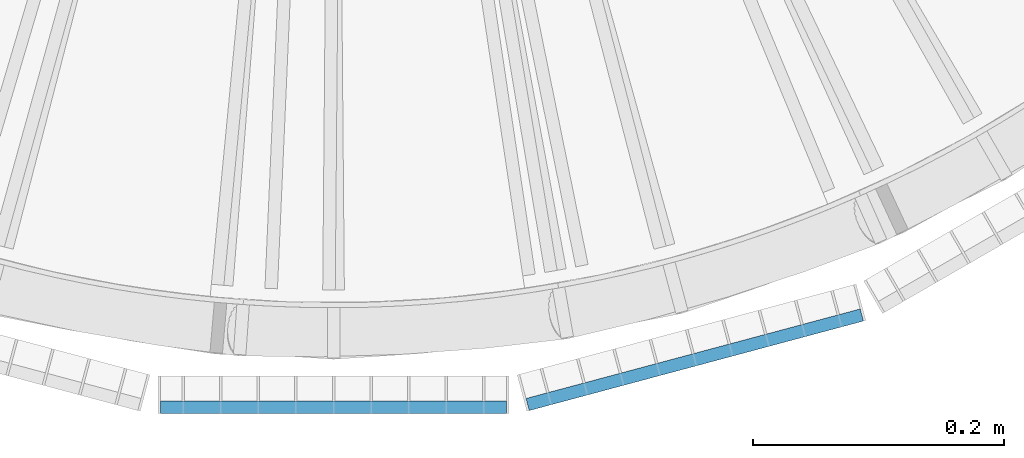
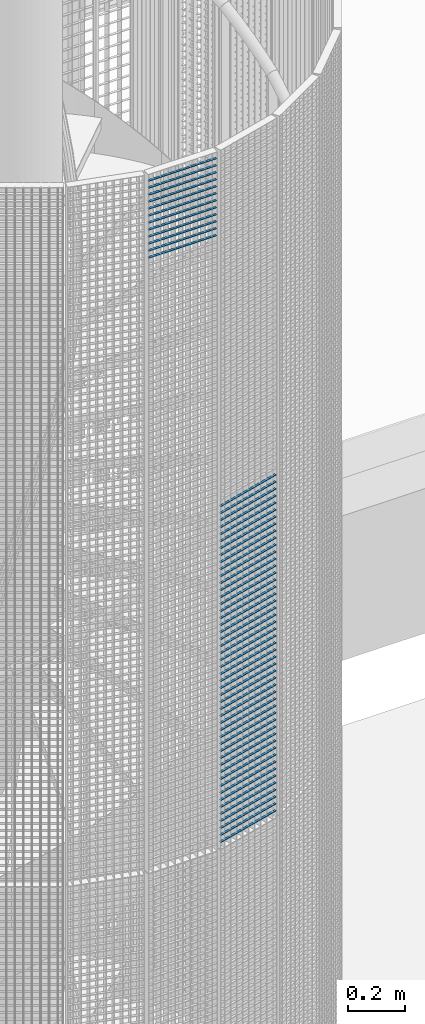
# One storey, part 136 of 1183: 61 beams, 2 elements without a shape of their own.
"""IFC2X3 building model written with IfcOpenShell, lengths in millimetres."""

from ifc_helpers import new_model, si_unit, frame, origin_with_axes, origin_2d_with_axis, place, context, subcontext, project, spatial, rectangle, extrude, material, type_object, element, aggregate, save


model = new_model("IFC2X3")

# Units and contexts
model_context = context("Model", 3, precision=1e-05, world=origin_with_axes())
body_context = subcontext(model_context, "Body", "Model", "MODEL_VIEW")
ifc_project = project(units=[si_unit("LENGTHUNIT", "METRE", prefix="MILLI"), si_unit("AREAUNIT", "SQUARE_METRE"), si_unit("VOLUMEUNIT", "CUBIC_METRE"), si_unit("MASSUNIT", "GRAM", prefix="KILO"), si_unit("TIMEUNIT", "SECOND"), si_unit("PLANEANGLEUNIT", "RADIAN"), si_unit("SOLIDANGLEUNIT", "STERADIAN"), si_unit("THERMODYNAMICTEMPERATUREUNIT", "DEGREE_CELSIUS"), si_unit("LUMINOUSINTENSITYUNIT", "LUMEN")], contexts=[model_context])

# Site, building, storey
site_placement = place(None, origin_with_axes())
site = spatial("IfcSite", under=ifc_project, at=site_placement, Name="Undefined", CompositionType="ELEMENT")
building_placement = place(site_placement, origin_with_axes())
building = spatial("IfcBuilding", under=site, at=building_placement, Name="Undefined", CompositionType="ELEMENT")
storey_placement = place(building_placement, origin_with_axes())
storey = spatial("IfcBuildingStorey", under=building, at=storey_placement, Name="Undefined", CompositionType="ELEMENT", Elevation=0.0)

# Assembly, beams
assembly_1_placement = place(storey_placement, origin_with_axes())
assembly_1 = element("IfcElementAssembly", 1, at=assembly_1_placement, inside=storey, Name="BORDURE", AssemblyPlace="NOTDEFINED", PredefinedType="NOTDEFINED")
ifc_material = material(Name="STEEL/S235JR")
beam_type = type_object("IfcBeamType", Name="PL2*10", PredefinedType="NOTDEFINED")
beam_1_placement = place(assembly_1_placement, frame((154.895926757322, -1111.25508286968, 16470.0), z_axis=(0.258819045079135, -0.965925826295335, 0.0), x_axis=(0.965925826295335, 0.258819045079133, 0.0)))
beam_1 = element("IfcBeam", 2, at=beam_1_placement, type_object=beam_type, material=ifc_material, Name="ENTRETOISE", context=body_context, shape_type="SweptSolid", body=[
    extrude(rectangle(XDim=2.0, YDim=10.0, at=origin_2d_with_axis()), frame((275.999999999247, 9.09494701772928e-13, 1.53210777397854e-14), z_axis=(-1.0, 0.0, 0.0), x_axis=(0.0, -1.0, 0.0)), (0.0, 0.0, 1.0), 276.0),
])
beam_2_placement = place(assembly_1_placement, frame((154.895926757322, -1111.25508286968, 16440.0), z_axis=(0.258819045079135, -0.965925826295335, 0.0), x_axis=(0.965925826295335, 0.258819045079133, 0.0)))
beam_2 = element("IfcBeam", 3, at=beam_2_placement, type_object=beam_type, material=ifc_material, Name="ENTRETOISE", context=body_context, shape_type="SweptSolid", body=[
    extrude(rectangle(XDim=2.0, YDim=10.0, at=origin_2d_with_axis()), frame((275.999999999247, 9.09494701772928e-13, 1.53210777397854e-14), z_axis=(-1.0, 0.0, 0.0), x_axis=(0.0, -1.0, 0.0)), (0.0, 0.0, 1.0), 276.0),
])
beam_3_placement = place(assembly_1_placement, frame((154.895926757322, -1111.25508286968, 16410.0), z_axis=(0.258819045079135, -0.965925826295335, 0.0), x_axis=(0.965925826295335, 0.258819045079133, 0.0)))
beam_3 = element("IfcBeam", 4, at=beam_3_placement, type_object=beam_type, material=ifc_material, Name="ENTRETOISE", context=body_context, shape_type="SweptSolid", body=[
    extrude(rectangle(XDim=2.0, YDim=10.0, at=origin_2d_with_axis()), frame((275.999999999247, 9.09494701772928e-13, 1.53210777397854e-14), z_axis=(-1.0, 0.0, 0.0), x_axis=(0.0, -1.0, 0.0)), (0.0, 0.0, 1.0), 276.0),
])
beam_4_placement = place(assembly_1_placement, frame((154.895926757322, -1111.25508286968, 16380.0), z_axis=(0.258819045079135, -0.965925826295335, 0.0), x_axis=(0.965925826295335, 0.258819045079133, 0.0)))
beam_4 = element("IfcBeam", 5, at=beam_4_placement, type_object=beam_type, material=ifc_material, Name="ENTRETOISE", context=body_context, shape_type="SweptSolid", body=[
    extrude(rectangle(XDim=2.0, YDim=10.0, at=origin_2d_with_axis()), frame((275.999999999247, 9.09494701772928e-13, 1.53210777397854e-14), z_axis=(-1.0, 0.0, 0.0), x_axis=(0.0, -1.0, 0.0)), (0.0, 0.0, 1.0), 276.0),
])
beam_5_placement = place(assembly_1_placement, frame((154.895926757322, -1111.25508286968, 16350.0), z_axis=(0.258819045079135, -0.965925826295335, 0.0), x_axis=(0.965925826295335, 0.258819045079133, 0.0)))
beam_5 = element("IfcBeam", 6, at=beam_5_placement, type_object=beam_type, material=ifc_material, Name="ENTRETOISE", context=body_context, shape_type="SweptSolid", body=[
    extrude(rectangle(XDim=2.0, YDim=10.0, at=origin_2d_with_axis()), frame((275.999999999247, 9.09494701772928e-13, 1.53210777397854e-14), z_axis=(-1.0, 0.0, 0.0), x_axis=(0.0, -1.0, 0.0)), (0.0, 0.0, 1.0), 276.0),
])
beam_6_placement = place(assembly_1_placement, frame((154.895926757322, -1111.25508286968, 16320.0), z_axis=(0.258819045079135, -0.965925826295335, 0.0), x_axis=(0.965925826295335, 0.258819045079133, 0.0)))
beam_6 = element("IfcBeam", 7, at=beam_6_placement, type_object=beam_type, material=ifc_material, Name="ENTRETOISE", context=body_context, shape_type="SweptSolid", body=[
    extrude(rectangle(XDim=2.0, YDim=10.0, at=origin_2d_with_axis()), frame((275.999999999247, 9.09494701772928e-13, 1.53210777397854e-14), z_axis=(-1.0, 0.0, 0.0), x_axis=(0.0, -1.0, 0.0)), (0.0, 0.0, 1.0), 276.0),
])
beam_7_placement = place(assembly_1_placement, frame((154.895926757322, -1111.25508286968, 16290.0), z_axis=(0.258819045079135, -0.965925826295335, 0.0), x_axis=(0.965925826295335, 0.258819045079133, 0.0)))
beam_7 = element("IfcBeam", 8, at=beam_7_placement, type_object=beam_type, material=ifc_material, Name="ENTRETOISE", context=body_context, shape_type="SweptSolid", body=[
    extrude(rectangle(XDim=2.0, YDim=10.0, at=origin_2d_with_axis()), frame((275.999999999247, 9.09494701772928e-13, 1.53210777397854e-14), z_axis=(-1.0, 0.0, 0.0), x_axis=(0.0, -1.0, 0.0)), (0.0, 0.0, 1.0), 276.0),
])
beam_8_placement = place(assembly_1_placement, frame((154.895926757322, -1111.25508286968, 16260.0), z_axis=(0.258819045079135, -0.965925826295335, 0.0), x_axis=(0.965925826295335, 0.258819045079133, 0.0)))
beam_8 = element("IfcBeam", 9, at=beam_8_placement, type_object=beam_type, material=ifc_material, Name="ENTRETOISE", context=body_context, shape_type="SweptSolid", body=[
    extrude(rectangle(XDim=2.0, YDim=10.0, at=origin_2d_with_axis()), frame((275.999999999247, 9.09494701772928e-13, 1.53210777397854e-14), z_axis=(-1.0, 0.0, 0.0), x_axis=(0.0, -1.0, 0.0)), (0.0, 0.0, 1.0), 276.0),
])
beam_9_placement = place(assembly_1_placement, frame((154.895926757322, -1111.25508286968, 16230.0), z_axis=(0.258819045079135, -0.965925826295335, 0.0), x_axis=(0.965925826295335, 0.258819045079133, 0.0)))
beam_9 = element("IfcBeam", 10, at=beam_9_placement, type_object=beam_type, material=ifc_material, Name="ENTRETOISE", context=body_context, shape_type="SweptSolid", body=[
    extrude(rectangle(XDim=2.0, YDim=10.0, at=origin_2d_with_axis()), frame((275.999999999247, 9.09494701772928e-13, 1.53210777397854e-14), z_axis=(-1.0, 0.0, 0.0), x_axis=(0.0, -1.0, 0.0)), (0.0, 0.0, 1.0), 276.0),
])
beam_10_placement = place(assembly_1_placement, frame((154.895926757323, -1111.25508286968, 16200.0), z_axis=(0.258819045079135, -0.965925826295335, 0.0), x_axis=(0.965925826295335, 0.258819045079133, 0.0)))
beam_10 = element("IfcBeam", 11, at=beam_10_placement, type_object=beam_type, material=ifc_material, Name="ENTRETOISE", context=body_context, shape_type="SweptSolid", body=[
    extrude(rectangle(XDim=2.0, YDim=10.0, at=origin_2d_with_axis()), frame((275.999999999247, 9.09494701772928e-13, 1.53210777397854e-14), z_axis=(-1.0, 0.0, 0.0), x_axis=(0.0, -1.0, 0.0)), (0.0, 0.0, 1.0), 276.0),
])
beam_11_placement = place(assembly_1_placement, frame((154.895926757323, -1111.25508286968, 16170.0), z_axis=(0.258819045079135, -0.965925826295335, 0.0), x_axis=(0.965925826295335, 0.258819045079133, 0.0)))
beam_11 = element("IfcBeam", 12, at=beam_11_placement, type_object=beam_type, material=ifc_material, Name="ENTRETOISE", context=body_context, shape_type="SweptSolid", body=[
    extrude(rectangle(XDim=2.0, YDim=10.0, at=origin_2d_with_axis()), frame((275.999999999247, 9.09494701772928e-13, 1.53210777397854e-14), z_axis=(-1.0, 0.0, 0.0), x_axis=(0.0, -1.0, 0.0)), (0.0, 0.0, 1.0), 276.0),
])
beam_12_placement = place(assembly_1_placement, frame((154.895926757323, -1111.25508286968, 16140.0), z_axis=(0.258819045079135, -0.965925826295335, 0.0), x_axis=(0.965925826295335, 0.258819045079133, 0.0)))
beam_12 = element("IfcBeam", 13, at=beam_12_placement, type_object=beam_type, material=ifc_material, Name="ENTRETOISE", context=body_context, shape_type="SweptSolid", body=[
    extrude(rectangle(XDim=2.0, YDim=10.0, at=origin_2d_with_axis()), frame((275.999999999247, 9.09494701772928e-13, 1.53210777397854e-14), z_axis=(-1.0, 0.0, 0.0), x_axis=(0.0, -1.0, 0.0)), (0.0, 0.0, 1.0), 276.0),
])
beam_13_placement = place(assembly_1_placement, frame((154.895926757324, -1111.25508286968, 15720.0), z_axis=(0.258819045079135, -0.965925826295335, 0.0), x_axis=(0.965925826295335, 0.258819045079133, 0.0)))
beam_13 = element("IfcBeam", 14, at=beam_13_placement, type_object=beam_type, material=ifc_material, Name="ENTRETOISE", context=body_context, shape_type="SweptSolid", body=[
    extrude(rectangle(XDim=2.0, YDim=10.0, at=origin_2d_with_axis()), frame((275.999999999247, 9.09494701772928e-13, 1.53210777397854e-14), z_axis=(-1.0, 0.0, 0.0), x_axis=(0.0, -1.0, 0.0)), (0.0, 0.0, 1.0), 276.0),
])
beam_14_placement = place(assembly_1_placement, frame((154.895926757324, -1111.25508286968, 15690.0), z_axis=(0.258819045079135, -0.965925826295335, 0.0), x_axis=(0.965925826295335, 0.258819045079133, 0.0)))
beam_14 = element("IfcBeam", 15, at=beam_14_placement, type_object=beam_type, material=ifc_material, Name="ENTRETOISE", context=body_context, shape_type="SweptSolid", body=[
    extrude(rectangle(XDim=2.0, YDim=10.0, at=origin_2d_with_axis()), frame((275.999999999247, 9.09494701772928e-13, 1.53210777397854e-14), z_axis=(-1.0, 0.0, 0.0), x_axis=(0.0, -1.0, 0.0)), (0.0, 0.0, 1.0), 276.0),
])
beam_15_placement = place(assembly_1_placement, frame((154.895926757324, -1111.25508286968, 15750.0), z_axis=(0.258819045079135, -0.965925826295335, 0.0), x_axis=(0.965925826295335, 0.258819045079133, 0.0)))
beam_15 = element("IfcBeam", 16, at=beam_15_placement, type_object=beam_type, material=ifc_material, Name="ENTRETOISE", context=body_context, shape_type="SweptSolid", body=[
    extrude(rectangle(XDim=2.0, YDim=10.0, at=origin_2d_with_axis()), frame((275.999999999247, 9.09494701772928e-13, 1.53210777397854e-14), z_axis=(-1.0, 0.0, 0.0), x_axis=(0.0, -1.0, 0.0)), (0.0, 0.0, 1.0), 276.0),
])
beam_16_placement = place(assembly_1_placement, frame((154.895926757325, -1111.25508286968, 15660.0), z_axis=(0.258819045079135, -0.965925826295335, 0.0), x_axis=(0.965925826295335, 0.258819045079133, 0.0)))
beam_16 = element("IfcBeam", 17, at=beam_16_placement, type_object=beam_type, material=ifc_material, Name="ENTRETOISE", context=body_context, shape_type="SweptSolid", body=[
    extrude(rectangle(XDim=2.0, YDim=10.0, at=origin_2d_with_axis()), frame((275.999999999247, 9.09494701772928e-13, 1.53210777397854e-14), z_axis=(-1.0, 0.0, 0.0), x_axis=(0.0, -1.0, 0.0)), (0.0, 0.0, 1.0), 276.0),
])
beam_17_placement = place(assembly_1_placement, frame((154.895926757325, -1111.25508286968, 15630.0), z_axis=(0.258819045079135, -0.965925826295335, 0.0), x_axis=(0.965925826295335, 0.258819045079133, 0.0)))
beam_17 = element("IfcBeam", 18, at=beam_17_placement, type_object=beam_type, material=ifc_material, Name="ENTRETOISE", context=body_context, shape_type="SweptSolid", body=[
    extrude(rectangle(XDim=2.0, YDim=10.0, at=origin_2d_with_axis()), frame((275.999999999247, 9.09494701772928e-13, 1.53210777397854e-14), z_axis=(-1.0, 0.0, 0.0), x_axis=(0.0, -1.0, 0.0)), (0.0, 0.0, 1.0), 276.0),
])
beam_18_placement = place(assembly_1_placement, frame((154.895926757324, -1111.25508286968, 15780.0), z_axis=(0.258819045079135, -0.965925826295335, 0.0), x_axis=(0.965925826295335, 0.258819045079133, 0.0)))
beam_18 = element("IfcBeam", 19, at=beam_18_placement, type_object=beam_type, material=ifc_material, Name="ENTRETOISE", context=body_context, shape_type="SweptSolid", body=[
    extrude(rectangle(XDim=2.0, YDim=10.0, at=origin_2d_with_axis()), frame((275.999999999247, 9.09494701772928e-13, 1.53210777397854e-14), z_axis=(-1.0, 0.0, 0.0), x_axis=(0.0, -1.0, 0.0)), (0.0, 0.0, 1.0), 276.0),
])
beam_19_placement = place(assembly_1_placement, frame((154.895926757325, -1111.25508286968, 15600.0), z_axis=(0.258819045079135, -0.965925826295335, 0.0), x_axis=(0.965925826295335, 0.258819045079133, 0.0)))
beam_19 = element("IfcBeam", 20, at=beam_19_placement, type_object=beam_type, material=ifc_material, Name="ENTRETOISE", context=body_context, shape_type="SweptSolid", body=[
    extrude(rectangle(XDim=2.0, YDim=10.0, at=origin_2d_with_axis()), frame((275.999999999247, 9.09494701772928e-13, 1.53210777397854e-14), z_axis=(-1.0, 0.0, 0.0), x_axis=(0.0, -1.0, 0.0)), (0.0, 0.0, 1.0), 276.0),
])
beam_20_placement = place(assembly_1_placement, frame((154.895926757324, -1111.25508286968, 15810.0), z_axis=(0.258819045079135, -0.965925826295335, 0.0), x_axis=(0.965925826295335, 0.258819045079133, 0.0)))
beam_20 = element("IfcBeam", 21, at=beam_20_placement, type_object=beam_type, material=ifc_material, Name="ENTRETOISE", context=body_context, shape_type="SweptSolid", body=[
    extrude(rectangle(XDim=2.0, YDim=10.0, at=origin_2d_with_axis()), frame((275.999999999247, 9.09494701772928e-13, 1.53210777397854e-14), z_axis=(-1.0, 0.0, 0.0), x_axis=(0.0, -1.0, 0.0)), (0.0, 0.0, 1.0), 276.0),
])
beam_21_placement = place(assembly_1_placement, frame((154.895926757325, -1111.25508286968, 15570.0), z_axis=(0.258819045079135, -0.965925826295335, 0.0), x_axis=(0.965925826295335, 0.258819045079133, 0.0)))
beam_21 = element("IfcBeam", 22, at=beam_21_placement, type_object=beam_type, material=ifc_material, Name="ENTRETOISE", context=body_context, shape_type="SweptSolid", body=[
    extrude(rectangle(XDim=2.0, YDim=10.0, at=origin_2d_with_axis()), frame((275.999999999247, 9.09494701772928e-13, 1.53210777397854e-14), z_axis=(-1.0, 0.0, 0.0), x_axis=(0.0, -1.0, 0.0)), (0.0, 0.0, 1.0), 276.0),
])
beam_22_placement = place(assembly_1_placement, frame((154.895926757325, -1111.25508286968, 15540.0), z_axis=(0.258819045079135, -0.965925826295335, 0.0), x_axis=(0.965925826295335, 0.258819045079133, 0.0)))
beam_22 = element("IfcBeam", 23, at=beam_22_placement, type_object=beam_type, material=ifc_material, Name="ENTRETOISE", context=body_context, shape_type="SweptSolid", body=[
    extrude(rectangle(XDim=2.0, YDim=10.0, at=origin_2d_with_axis()), frame((275.999999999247, 9.09494701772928e-13, 1.53210777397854e-14), z_axis=(-1.0, 0.0, 0.0), x_axis=(0.0, -1.0, 0.0)), (0.0, 0.0, 1.0), 276.0),
])
beam_23_placement = place(assembly_1_placement, frame((154.895926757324, -1111.25508286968, 15840.0), z_axis=(0.258819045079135, -0.965925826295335, 0.0), x_axis=(0.965925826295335, 0.258819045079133, 0.0)))
beam_23 = element("IfcBeam", 24, at=beam_23_placement, type_object=beam_type, material=ifc_material, Name="ENTRETOISE", context=body_context, shape_type="SweptSolid", body=[
    extrude(rectangle(XDim=2.0, YDim=10.0, at=origin_2d_with_axis()), frame((275.999999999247, 9.09494701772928e-13, 1.53210777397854e-14), z_axis=(-1.0, 0.0, 0.0), x_axis=(0.0, -1.0, 0.0)), (0.0, 0.0, 1.0), 276.0),
])
beam_24_placement = place(assembly_1_placement, frame((154.895926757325, -1111.25508286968, 15510.0), z_axis=(0.258819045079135, -0.965925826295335, 0.0), x_axis=(0.965925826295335, 0.258819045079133, 0.0)))
beam_24 = element("IfcBeam", 25, at=beam_24_placement, type_object=beam_type, material=ifc_material, Name="ENTRETOISE", context=body_context, shape_type="SweptSolid", body=[
    extrude(rectangle(XDim=2.0, YDim=10.0, at=origin_2d_with_axis()), frame((275.999999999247, 9.09494701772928e-13, 1.53210777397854e-14), z_axis=(-1.0, 0.0, 0.0), x_axis=(0.0, -1.0, 0.0)), (0.0, 0.0, 1.0), 276.0),
])
beam_25_placement = place(assembly_1_placement, frame((154.895926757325, -1111.25508286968, 15480.0), z_axis=(0.258819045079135, -0.965925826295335, 0.0), x_axis=(0.965925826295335, 0.258819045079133, 0.0)))
beam_25 = element("IfcBeam", 26, at=beam_25_placement, type_object=beam_type, material=ifc_material, Name="ENTRETOISE", context=body_context, shape_type="SweptSolid", body=[
    extrude(rectangle(XDim=2.0, YDim=10.0, at=origin_2d_with_axis()), frame((275.999999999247, 9.09494701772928e-13, 1.53210777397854e-14), z_axis=(-1.0, 0.0, 0.0), x_axis=(0.0, -1.0, 0.0)), (0.0, 0.0, 1.0), 276.0),
])
beam_26_placement = place(assembly_1_placement, frame((154.895926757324, -1111.25508286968, 15870.0), z_axis=(0.258819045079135, -0.965925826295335, 0.0), x_axis=(0.965925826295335, 0.258819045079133, 0.0)))
beam_26 = element("IfcBeam", 27, at=beam_26_placement, type_object=beam_type, material=ifc_material, Name="ENTRETOISE", context=body_context, shape_type="SweptSolid", body=[
    extrude(rectangle(XDim=2.0, YDim=10.0, at=origin_2d_with_axis()), frame((275.999999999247, 9.09494701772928e-13, 1.53210777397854e-14), z_axis=(-1.0, 0.0, 0.0), x_axis=(0.0, -1.0, 0.0)), (0.0, 0.0, 1.0), 276.0),
])
beam_27_placement = place(assembly_1_placement, frame((154.895926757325, -1111.25508286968, 15450.0), z_axis=(0.258819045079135, -0.965925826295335, 0.0), x_axis=(0.965925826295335, 0.258819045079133, 0.0)))
beam_27 = element("IfcBeam", 28, at=beam_27_placement, type_object=beam_type, material=ifc_material, Name="ENTRETOISE", context=body_context, shape_type="SweptSolid", body=[
    extrude(rectangle(XDim=2.0, YDim=10.0, at=origin_2d_with_axis()), frame((275.999999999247, 9.09494701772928e-13, 1.53210777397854e-14), z_axis=(-1.0, 0.0, 0.0), x_axis=(0.0, -1.0, 0.0)), (0.0, 0.0, 1.0), 276.0),
])
beam_28_placement = place(assembly_1_placement, frame((154.895926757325, -1111.25508286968, 15420.0), z_axis=(0.258819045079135, -0.965925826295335, 0.0), x_axis=(0.965925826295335, 0.258819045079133, 0.0)))
beam_28 = element("IfcBeam", 29, at=beam_28_placement, type_object=beam_type, material=ifc_material, Name="ENTRETOISE", context=body_context, shape_type="SweptSolid", body=[
    extrude(rectangle(XDim=2.0, YDim=10.0, at=origin_2d_with_axis()), frame((275.999999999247, 9.09494701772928e-13, 1.53210777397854e-14), z_axis=(-1.0, 0.0, 0.0), x_axis=(0.0, -1.0, 0.0)), (0.0, 0.0, 1.0), 276.0),
])
beam_29_placement = place(assembly_1_placement, frame((154.895926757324, -1111.25508286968, 15900.0), z_axis=(0.258819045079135, -0.965925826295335, 0.0), x_axis=(0.965925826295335, 0.258819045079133, 0.0)))
beam_29 = element("IfcBeam", 30, at=beam_29_placement, type_object=beam_type, material=ifc_material, Name="ENTRETOISE", context=body_context, shape_type="SweptSolid", body=[
    extrude(rectangle(XDim=2.0, YDim=10.0, at=origin_2d_with_axis()), frame((275.999999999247, 9.09494701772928e-13, 1.53210777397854e-14), z_axis=(-1.0, 0.0, 0.0), x_axis=(0.0, -1.0, 0.0)), (0.0, 0.0, 1.0), 276.0),
])
beam_30_placement = place(assembly_1_placement, frame((154.895926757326, -1111.25508286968, 15390.0), z_axis=(0.258819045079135, -0.965925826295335, 0.0), x_axis=(0.965925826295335, 0.258819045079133, 0.0)))
beam_30 = element("IfcBeam", 31, at=beam_30_placement, type_object=beam_type, material=ifc_material, Name="ENTRETOISE", context=body_context, shape_type="SweptSolid", body=[
    extrude(rectangle(XDim=2.0, YDim=10.0, at=origin_2d_with_axis()), frame((275.999999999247, 9.09494701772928e-13, 1.53210777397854e-14), z_axis=(-1.0, 0.0, 0.0), x_axis=(0.0, -1.0, 0.0)), (0.0, 0.0, 1.0), 276.0),
])
beam_31_placement = place(assembly_1_placement, frame((154.895926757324, -1111.25508286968, 15930.0), z_axis=(0.258819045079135, -0.965925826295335, 0.0), x_axis=(0.965925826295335, 0.258819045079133, 0.0)))
beam_31 = element("IfcBeam", 32, at=beam_31_placement, type_object=beam_type, material=ifc_material, Name="ENTRETOISE", context=body_context, shape_type="SweptSolid", body=[
    extrude(rectangle(XDim=2.0, YDim=10.0, at=origin_2d_with_axis()), frame((275.999999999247, 9.09494701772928e-13, 1.53210777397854e-14), z_axis=(-1.0, 0.0, 0.0), x_axis=(0.0, -1.0, 0.0)), (0.0, 0.0, 1.0), 276.0),
])
beam_32_placement = place(assembly_1_placement, frame((154.895926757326, -1111.25508286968, 15360.0), z_axis=(0.258819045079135, -0.965925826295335, 0.0), x_axis=(0.965925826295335, 0.258819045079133, 0.0)))
beam_32 = element("IfcBeam", 33, at=beam_32_placement, type_object=beam_type, material=ifc_material, Name="ENTRETOISE", context=body_context, shape_type="SweptSolid", body=[
    extrude(rectangle(XDim=2.0, YDim=10.0, at=origin_2d_with_axis()), frame((275.999999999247, 9.09494701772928e-13, 1.53210777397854e-14), z_axis=(-1.0, 0.0, 0.0), x_axis=(0.0, -1.0, 0.0)), (0.0, 0.0, 1.0), 276.0),
])
beam_33_placement = place(assembly_1_placement, frame((154.895926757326, -1111.25508286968, 15330.0), z_axis=(0.258819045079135, -0.965925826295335, 0.0), x_axis=(0.965925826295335, 0.258819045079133, 0.0)))
beam_33 = element("IfcBeam", 34, at=beam_33_placement, type_object=beam_type, material=ifc_material, Name="ENTRETOISE", context=body_context, shape_type="SweptSolid", body=[
    extrude(rectangle(XDim=2.0, YDim=10.0, at=origin_2d_with_axis()), frame((275.999999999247, 9.09494701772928e-13, 1.53210777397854e-14), z_axis=(-1.0, 0.0, 0.0), x_axis=(0.0, -1.0, 0.0)), (0.0, 0.0, 1.0), 276.0),
])
beam_34_placement = place(assembly_1_placement, frame((154.895926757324, -1111.25508286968, 15960.0), z_axis=(0.258819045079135, -0.965925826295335, 0.0), x_axis=(0.965925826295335, 0.258819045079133, 0.0)))
beam_34 = element("IfcBeam", 35, at=beam_34_placement, type_object=beam_type, material=ifc_material, Name="ENTRETOISE", context=body_context, shape_type="SweptSolid", body=[
    extrude(rectangle(XDim=2.0, YDim=10.0, at=origin_2d_with_axis()), frame((275.999999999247, 9.09494701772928e-13, 1.53210777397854e-14), z_axis=(-1.0, 0.0, 0.0), x_axis=(0.0, -1.0, 0.0)), (0.0, 0.0, 1.0), 276.0),
])
beam_35_placement = place(assembly_1_placement, frame((154.895926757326, -1111.25508286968, 15300.0), z_axis=(0.258819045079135, -0.965925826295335, 0.0), x_axis=(0.965925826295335, 0.258819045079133, 0.0)))
beam_35 = element("IfcBeam", 36, at=beam_35_placement, type_object=beam_type, material=ifc_material, Name="ENTRETOISE", context=body_context, shape_type="SweptSolid", body=[
    extrude(rectangle(XDim=2.0, YDim=10.0, at=origin_2d_with_axis()), frame((275.999999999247, 9.09494701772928e-13, 1.53210777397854e-14), z_axis=(-1.0, 0.0, 0.0), x_axis=(0.0, -1.0, 0.0)), (0.0, 0.0, 1.0), 276.0),
])
beam_36_placement = place(assembly_1_placement, frame((154.895926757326, -1111.25508286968, 15270.0), z_axis=(0.258819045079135, -0.965925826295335, 0.0), x_axis=(0.965925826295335, 0.258819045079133, 0.0)))
beam_36 = element("IfcBeam", 37, at=beam_36_placement, type_object=beam_type, material=ifc_material, Name="ENTRETOISE", context=body_context, shape_type="SweptSolid", body=[
    extrude(rectangle(XDim=2.0, YDim=10.0, at=origin_2d_with_axis()), frame((275.999999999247, 9.09494701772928e-13, 1.53210777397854e-14), z_axis=(-1.0, 0.0, 0.0), x_axis=(0.0, -1.0, 0.0)), (0.0, 0.0, 1.0), 276.0),
])
beam_37_placement = place(assembly_1_placement, frame((154.895926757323, -1111.25508286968, 15990.0), z_axis=(0.258819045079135, -0.965925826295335, 0.0), x_axis=(0.965925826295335, 0.258819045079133, 0.0)))
beam_37 = element("IfcBeam", 38, at=beam_37_placement, type_object=beam_type, material=ifc_material, Name="ENTRETOISE", context=body_context, shape_type="SweptSolid", body=[
    extrude(rectangle(XDim=2.0, YDim=10.0, at=origin_2d_with_axis()), frame((275.999999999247, 9.09494701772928e-13, 1.53210777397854e-14), z_axis=(-1.0, 0.0, 0.0), x_axis=(0.0, -1.0, 0.0)), (0.0, 0.0, 1.0), 276.0),
])
beam_38_placement = place(assembly_1_placement, frame((154.895926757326, -1111.25508286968, 15240.0), z_axis=(0.258819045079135, -0.965925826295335, 0.0), x_axis=(0.965925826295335, 0.258819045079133, 0.0)))
beam_38 = element("IfcBeam", 39, at=beam_38_placement, type_object=beam_type, material=ifc_material, Name="ENTRETOISE", context=body_context, shape_type="SweptSolid", body=[
    extrude(rectangle(XDim=2.0, YDim=10.0, at=origin_2d_with_axis()), frame((275.999999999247, 9.09494701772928e-13, 1.53210777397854e-14), z_axis=(-1.0, 0.0, 0.0), x_axis=(0.0, -1.0, 0.0)), (0.0, 0.0, 1.0), 276.0),
])
beam_39_placement = place(assembly_1_placement, frame((154.895926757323, -1111.25508286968, 16020.0), z_axis=(0.258819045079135, -0.965925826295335, 0.0), x_axis=(0.965925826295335, 0.258819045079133, 0.0)))
beam_39 = element("IfcBeam", 40, at=beam_39_placement, type_object=beam_type, material=ifc_material, Name="ENTRETOISE", context=body_context, shape_type="SweptSolid", body=[
    extrude(rectangle(XDim=2.0, YDim=10.0, at=origin_2d_with_axis()), frame((275.999999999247, 9.09494701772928e-13, 1.53210777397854e-14), z_axis=(-1.0, 0.0, 0.0), x_axis=(0.0, -1.0, 0.0)), (0.0, 0.0, 1.0), 276.0),
])
beam_40_placement = place(assembly_1_placement, frame((154.895926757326, -1111.25508286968, 15210.0), z_axis=(0.258819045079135, -0.965925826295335, 0.0), x_axis=(0.965925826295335, 0.258819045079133, 0.0)))
beam_40 = element("IfcBeam", 41, at=beam_40_placement, type_object=beam_type, material=ifc_material, Name="ENTRETOISE", context=body_context, shape_type="SweptSolid", body=[
    extrude(rectangle(XDim=2.0, YDim=10.0, at=origin_2d_with_axis()), frame((275.999999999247, 9.09494701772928e-13, 1.53210777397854e-14), z_axis=(-1.0, 0.0, 0.0), x_axis=(0.0, -1.0, 0.0)), (0.0, 0.0, 1.0), 276.0),
])
beam_41_placement = place(assembly_1_placement, frame((154.895926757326, -1111.25508286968, 15180.0), z_axis=(0.258819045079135, -0.965925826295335, 0.0), x_axis=(0.965925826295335, 0.258819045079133, 0.0)))
beam_41 = element("IfcBeam", 42, at=beam_41_placement, type_object=beam_type, material=ifc_material, Name="ENTRETOISE", context=body_context, shape_type="SweptSolid", body=[
    extrude(rectangle(XDim=2.0, YDim=10.0, at=origin_2d_with_axis()), frame((275.999999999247, 9.09494701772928e-13, 1.53210777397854e-14), z_axis=(-1.0, 0.0, 0.0), x_axis=(0.0, -1.0, 0.0)), (0.0, 0.0, 1.0), 276.0),
])
beam_42_placement = place(assembly_1_placement, frame((154.895926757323, -1111.25508286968, 16050.0), z_axis=(0.258819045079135, -0.965925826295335, 0.0), x_axis=(0.965925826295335, 0.258819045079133, 0.0)))
beam_42 = element("IfcBeam", 43, at=beam_42_placement, type_object=beam_type, material=ifc_material, Name="ENTRETOISE", context=body_context, shape_type="SweptSolid", body=[
    extrude(rectangle(XDim=2.0, YDim=10.0, at=origin_2d_with_axis()), frame((275.999999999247, 9.09494701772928e-13, 1.53210777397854e-14), z_axis=(-1.0, 0.0, 0.0), x_axis=(0.0, -1.0, 0.0)), (0.0, 0.0, 1.0), 276.0),
])
beam_43_placement = place(assembly_1_placement, frame((154.895926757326, -1111.25508286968, 15150.0), z_axis=(0.258819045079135, -0.965925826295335, 0.0), x_axis=(0.965925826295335, 0.258819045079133, 0.0)))
beam_43 = element("IfcBeam", 44, at=beam_43_placement, type_object=beam_type, material=ifc_material, Name="ENTRETOISE", context=body_context, shape_type="SweptSolid", body=[
    extrude(rectangle(XDim=2.0, YDim=10.0, at=origin_2d_with_axis()), frame((275.999999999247, 9.09494701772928e-13, 1.53210777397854e-14), z_axis=(-1.0, 0.0, 0.0), x_axis=(0.0, -1.0, 0.0)), (0.0, 0.0, 1.0), 276.0),
])
beam_44_placement = place(assembly_1_placement, frame((154.895926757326, -1111.25508286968, 15120.0), z_axis=(0.258819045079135, -0.965925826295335, 0.0), x_axis=(0.965925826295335, 0.258819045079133, 0.0)))
beam_44 = element("IfcBeam", 45, at=beam_44_placement, type_object=beam_type, material=ifc_material, Name="ENTRETOISE", context=body_context, shape_type="SweptSolid", body=[
    extrude(rectangle(XDim=2.0, YDim=10.0, at=origin_2d_with_axis()), frame((275.999999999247, 9.09494701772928e-13, 1.53210777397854e-14), z_axis=(-1.0, 0.0, 0.0), x_axis=(0.0, -1.0, 0.0)), (0.0, 0.0, 1.0), 276.0),
])
beam_45_placement = place(assembly_1_placement, frame((154.895926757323, -1111.25508286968, 16080.0), z_axis=(0.258819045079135, -0.965925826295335, 0.0), x_axis=(0.965925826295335, 0.258819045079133, 0.0)))
beam_45 = element("IfcBeam", 46, at=beam_45_placement, type_object=beam_type, material=ifc_material, Name="ENTRETOISE", context=body_context, shape_type="SweptSolid", body=[
    extrude(rectangle(XDim=2.0, YDim=10.0, at=origin_2d_with_axis()), frame((275.999999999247, 9.09494701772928e-13, 1.53210777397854e-14), z_axis=(-1.0, 0.0, 0.0), x_axis=(0.0, -1.0, 0.0)), (0.0, 0.0, 1.0), 276.0),
])
beam_46_placement = place(assembly_1_placement, frame((154.895926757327, -1111.25508286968, 15090.0), z_axis=(0.258819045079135, -0.965925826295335, 0.0), x_axis=(0.965925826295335, 0.258819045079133, 0.0)))
beam_46 = element("IfcBeam", 47, at=beam_46_placement, type_object=beam_type, material=ifc_material, Name="ENTRETOISE", context=body_context, shape_type="SweptSolid", body=[
    extrude(rectangle(XDim=2.0, YDim=10.0, at=origin_2d_with_axis()), frame((275.999999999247, 9.09494701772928e-13, 1.53210777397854e-14), z_axis=(-1.0, 0.0, 0.0), x_axis=(0.0, -1.0, 0.0)), (0.0, 0.0, 1.0), 276.0),
])
beam_47_placement = place(assembly_1_placement, frame((154.895926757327, -1111.25508286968, 15060.0), z_axis=(0.258819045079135, -0.965925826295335, 0.0), x_axis=(0.965925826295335, 0.258819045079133, 0.0)))
beam_47 = element("IfcBeam", 48, at=beam_47_placement, type_object=beam_type, material=ifc_material, Name="ENTRETOISE", context=body_context, shape_type="SweptSolid", body=[
    extrude(rectangle(XDim=2.0, YDim=10.0, at=origin_2d_with_axis()), frame((275.999999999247, 9.09494701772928e-13, 1.53210777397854e-14), z_axis=(-1.0, 0.0, 0.0), x_axis=(0.0, -1.0, 0.0)), (0.0, 0.0, 1.0), 276.0),
])
beam_48_placement = place(assembly_1_placement, frame((154.895926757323, -1111.25508286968, 16110.0), z_axis=(0.258819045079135, -0.965925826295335, 0.0), x_axis=(0.965925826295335, 0.258819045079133, 0.0)))
beam_48 = element("IfcBeam", 49, at=beam_48_placement, type_object=beam_type, material=ifc_material, Name="ENTRETOISE", context=body_context, shape_type="SweptSolid", body=[
    extrude(rectangle(XDim=2.0, YDim=10.0, at=origin_2d_with_axis()), frame((275.999999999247, 9.09494701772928e-13, 1.53210777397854e-14), z_axis=(-1.0, 0.0, 0.0), x_axis=(0.0, -1.0, 0.0)), (0.0, 0.0, 1.0), 276.0),
])
beam_49_placement = place(assembly_1_placement, frame((154.895926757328, -1111.25508286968, 15030.0), z_axis=(0.258819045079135, -0.965925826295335, 0.0), x_axis=(0.965925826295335, 0.258819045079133, 0.0)))
beam_49 = element("IfcBeam", 50, at=beam_49_placement, type_object=beam_type, material=ifc_material, Name="ENTRETOISE", context=body_context, shape_type="SweptSolid", body=[
    extrude(rectangle(XDim=2.0, YDim=10.0, at=origin_2d_with_axis()), frame((275.999999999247, 9.09494701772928e-13, 1.53210777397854e-14), z_axis=(-1.0, 0.0, 0.0), x_axis=(0.0, -1.0, 0.0)), (0.0, 0.0, 1.0), 276.0),
])
aggregate(assembly_1, [beam_1, beam_2, beam_3, beam_4, beam_5, beam_6, beam_7, beam_8, beam_9, beam_10, beam_11, beam_12, beam_13, beam_14, beam_15, beam_16, beam_17, beam_18, beam_19, beam_20, beam_21, beam_22, beam_23, beam_24, beam_25, beam_26, beam_27, beam_28, beam_29, beam_30, beam_31, beam_32, beam_33, beam_34, beam_35, beam_36, beam_37, beam_38, beam_39, beam_40, beam_41, beam_42, beam_43, beam_44, beam_45, beam_46, beam_47, beam_48, beam_49])

assembly_2_placement = place(storey_placement, origin_with_axes())
assembly_2 = element("IfcElementAssembly", 51, at=assembly_2_placement, inside=storey, Name="BORDURE", AssemblyPlace="NOTDEFINED", PredefinedType="NOTDEFINED")
beam_50_placement = place(assembly_2_placement, frame((-137.996003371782, -1113.47999999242, 17970.0), z_axis=(0.0, -1.0, 0.0), x_axis=(1.0, 0.0, 0.0)))
beam_50 = element("IfcBeam", 52, at=beam_50_placement, type_object=beam_type, material=ifc_material, Name="ENTRETOISE", context=body_context, shape_type="SweptSolid", body=[
    extrude(rectangle(XDim=2.0, YDim=10.0, at=origin_2d_with_axis()), frame((275.999999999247, 9.09494701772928e-13, 1.53210777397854e-14), z_axis=(-1.0, 0.0, 0.0), x_axis=(0.0, -1.0, 0.0)), (0.0, 0.0, 1.0), 276.0),
])
beam_51_placement = place(assembly_2_placement, frame((-137.996003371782, -1113.47999999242, 17940.0), z_axis=(0.0, -1.0, 0.0), x_axis=(1.0, 0.0, 0.0)))
beam_51 = element("IfcBeam", 53, at=beam_51_placement, type_object=beam_type, material=ifc_material, Name="ENTRETOISE", context=body_context, shape_type="SweptSolid", body=[
    extrude(rectangle(XDim=2.0, YDim=10.0, at=origin_2d_with_axis()), frame((275.999999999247, 9.09494701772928e-13, 1.53210777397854e-14), z_axis=(-1.0, 0.0, 0.0), x_axis=(0.0, -1.0, 0.0)), (0.0, 0.0, 1.0), 276.0),
])
beam_52_placement = place(assembly_2_placement, frame((-137.996003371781, -1113.47999999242, 17910.0), z_axis=(0.0, -1.0, 0.0), x_axis=(1.0, 0.0, 0.0)))
beam_52 = element("IfcBeam", 54, at=beam_52_placement, type_object=beam_type, material=ifc_material, Name="ENTRETOISE", context=body_context, shape_type="SweptSolid", body=[
    extrude(rectangle(XDim=2.0, YDim=10.0, at=origin_2d_with_axis()), frame((275.999999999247, 9.09494701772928e-13, 1.53210777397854e-14), z_axis=(-1.0, 0.0, 0.0), x_axis=(0.0, -1.0, 0.0)), (0.0, 0.0, 1.0), 276.0),
])
beam_53_placement = place(assembly_2_placement, frame((-137.996003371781, -1113.47999999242, 17880.0), z_axis=(0.0, -1.0, 0.0), x_axis=(1.0, 0.0, 0.0)))
beam_53 = element("IfcBeam", 55, at=beam_53_placement, type_object=beam_type, material=ifc_material, Name="ENTRETOISE", context=body_context, shape_type="SweptSolid", body=[
    extrude(rectangle(XDim=2.0, YDim=10.0, at=origin_2d_with_axis()), frame((275.999999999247, 9.09494701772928e-13, 1.53210777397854e-14), z_axis=(-1.0, 0.0, 0.0), x_axis=(0.0, -1.0, 0.0)), (0.0, 0.0, 1.0), 276.0),
])
beam_54_placement = place(assembly_2_placement, frame((-137.996003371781, -1113.47999999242, 17850.0), z_axis=(0.0, -1.0, 0.0), x_axis=(1.0, 0.0, 0.0)))
beam_54 = element("IfcBeam", 56, at=beam_54_placement, type_object=beam_type, material=ifc_material, Name="ENTRETOISE", context=body_context, shape_type="SweptSolid", body=[
    extrude(rectangle(XDim=2.0, YDim=10.0, at=origin_2d_with_axis()), frame((275.999999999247, 9.09494701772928e-13, 1.53210777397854e-14), z_axis=(-1.0, 0.0, 0.0), x_axis=(0.0, -1.0, 0.0)), (0.0, 0.0, 1.0), 276.0),
])
beam_55_placement = place(assembly_2_placement, frame((-137.996003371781, -1113.47999999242, 17820.0), z_axis=(0.0, -1.0, 0.0), x_axis=(1.0, 0.0, 0.0)))
beam_55 = element("IfcBeam", 57, at=beam_55_placement, type_object=beam_type, material=ifc_material, Name="ENTRETOISE", context=body_context, shape_type="SweptSolid", body=[
    extrude(rectangle(XDim=2.0, YDim=10.0, at=origin_2d_with_axis()), frame((275.999999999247, 9.09494701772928e-13, 1.53210777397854e-14), z_axis=(-1.0, 0.0, 0.0), x_axis=(0.0, -1.0, 0.0)), (0.0, 0.0, 1.0), 276.0),
])
beam_56_placement = place(assembly_2_placement, frame((-137.996003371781, -1113.47999999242, 17790.0), z_axis=(0.0, -1.0, 0.0), x_axis=(1.0, 0.0, 0.0)))
beam_56 = element("IfcBeam", 58, at=beam_56_placement, type_object=beam_type, material=ifc_material, Name="ENTRETOISE", context=body_context, shape_type="SweptSolid", body=[
    extrude(rectangle(XDim=2.0, YDim=10.0, at=origin_2d_with_axis()), frame((275.999999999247, 9.09494701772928e-13, 1.53210777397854e-14), z_axis=(-1.0, 0.0, 0.0), x_axis=(0.0, -1.0, 0.0)), (0.0, 0.0, 1.0), 276.0),
])
beam_57_placement = place(assembly_2_placement, frame((-137.996003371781, -1113.47999999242, 17760.0), z_axis=(0.0, -1.0, 0.0), x_axis=(1.0, 0.0, 0.0)))
beam_57 = element("IfcBeam", 59, at=beam_57_placement, type_object=beam_type, material=ifc_material, Name="ENTRETOISE", context=body_context, shape_type="SweptSolid", body=[
    extrude(rectangle(XDim=2.0, YDim=10.0, at=origin_2d_with_axis()), frame((275.999999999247, 9.09494701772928e-13, 1.53210777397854e-14), z_axis=(-1.0, 0.0, 0.0), x_axis=(0.0, -1.0, 0.0)), (0.0, 0.0, 1.0), 276.0),
])
beam_58_placement = place(assembly_2_placement, frame((-137.996003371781, -1113.47999999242, 17730.0), z_axis=(0.0, -1.0, 0.0), x_axis=(1.0, 0.0, 0.0)))
beam_58 = element("IfcBeam", 60, at=beam_58_placement, type_object=beam_type, material=ifc_material, Name="ENTRETOISE", context=body_context, shape_type="SweptSolid", body=[
    extrude(rectangle(XDim=2.0, YDim=10.0, at=origin_2d_with_axis()), frame((275.999999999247, 9.09494701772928e-13, 1.53210777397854e-14), z_axis=(-1.0, 0.0, 0.0), x_axis=(0.0, -1.0, 0.0)), (0.0, 0.0, 1.0), 276.0),
])
beam_59_placement = place(assembly_2_placement, frame((-137.996003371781, -1113.47999999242, 17700.0), z_axis=(0.0, -1.0, 0.0), x_axis=(1.0, 0.0, 0.0)))
beam_59 = element("IfcBeam", 61, at=beam_59_placement, type_object=beam_type, material=ifc_material, Name="ENTRETOISE", context=body_context, shape_type="SweptSolid", body=[
    extrude(rectangle(XDim=2.0, YDim=10.0, at=origin_2d_with_axis()), frame((275.999999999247, 9.09494701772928e-13, 1.53210777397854e-14), z_axis=(-1.0, 0.0, 0.0), x_axis=(0.0, -1.0, 0.0)), (0.0, 0.0, 1.0), 276.0),
])
beam_60_placement = place(assembly_2_placement, frame((-137.996003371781, -1113.47999999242, 17670.0), z_axis=(0.0, -1.0, 0.0), x_axis=(1.0, 0.0, 0.0)))
beam_60 = element("IfcBeam", 62, at=beam_60_placement, type_object=beam_type, material=ifc_material, Name="ENTRETOISE", context=body_context, shape_type="SweptSolid", body=[
    extrude(rectangle(XDim=2.0, YDim=10.0, at=origin_2d_with_axis()), frame((275.999999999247, 9.09494701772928e-13, 1.53210777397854e-14), z_axis=(-1.0, 0.0, 0.0), x_axis=(0.0, -1.0, 0.0)), (0.0, 0.0, 1.0), 276.0),
])
beam_61_placement = place(assembly_2_placement, frame((-137.996003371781, -1113.47999999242, 17640.0), z_axis=(0.0, -1.0, 0.0), x_axis=(1.0, 0.0, 0.0)))
beam_61 = element("IfcBeam", 63, at=beam_61_placement, type_object=beam_type, material=ifc_material, Name="ENTRETOISE", context=body_context, shape_type="SweptSolid", body=[
    extrude(rectangle(XDim=2.0, YDim=10.0, at=origin_2d_with_axis()), frame((275.999999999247, 9.09494701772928e-13, 1.53210777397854e-14), z_axis=(-1.0, 0.0, 0.0), x_axis=(0.0, -1.0, 0.0)), (0.0, 0.0, 1.0), 276.0),
])
aggregate(assembly_2, [beam_50, beam_51, beam_52, beam_53, beam_54, beam_55, beam_56, beam_57, beam_58, beam_59, beam_60, beam_61])

save(model, "model.ifc")
